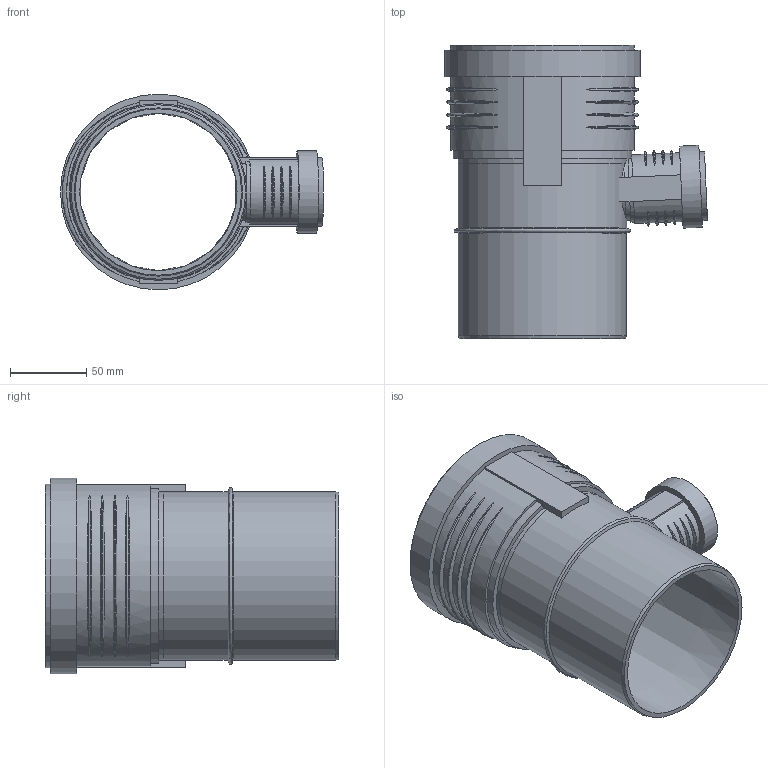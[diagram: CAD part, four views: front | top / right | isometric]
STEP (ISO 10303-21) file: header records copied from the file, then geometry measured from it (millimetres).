
FILE_DESCRIPTION(/* description */ (''),/* implementation_level */ '2;1');
FILE_NAME(/* name */ 'Z:\Geberit\Export\NewStep\390547.stp',/* time_stamp */ '2014-04-02T08:14:30+02:00',/* author */ ('ML'),/* organization */ (''),/* preprocessor_version */ 'ST-DEVELOPER v15.2',/* originating_system */ 'Autodesk Inventor 2014',/* authorisation */ '');
FILE_SCHEMA (('AUTOMOTIVE_DESIGN { 1 0 10303 214 3 1 1 }'));
Length unit declared in the file: millimetre
Products named in the file (4): 861359; 861400; 861404; 390547
Bounding box: 172.11 x 192 x 128.1 mm (x, y, z)
Volume: 287250.7 mm3; surface area: 176316.6 mm2
Topology: 3 solids, 3 shells, 124 faces, 304 edges, 212 vertices
Faces by surface type: torus 50, plane 37, cylinder 30, cone 7
Full cylindrical faces by diameter (mm): 36.15 x2, 40.15 x2, 41 x2, 45 x1, 49.7 x1, 53.7 x1, 103.2 x1, 110.2 x3, 113.3 x2, 120.3 x1, 121.1 x1, 128.1 x1
Entity records: 5015 total; most frequent: CARTESIAN_POINT 2107, ORIENTED_EDGE 534, DIRECTION 528, EDGE_CURVE 267, AXIS2_PLACEMENT_3D 228, VERTEX_POINT 203, EDGE_LOOP 186, STYLED_ITEM 124
